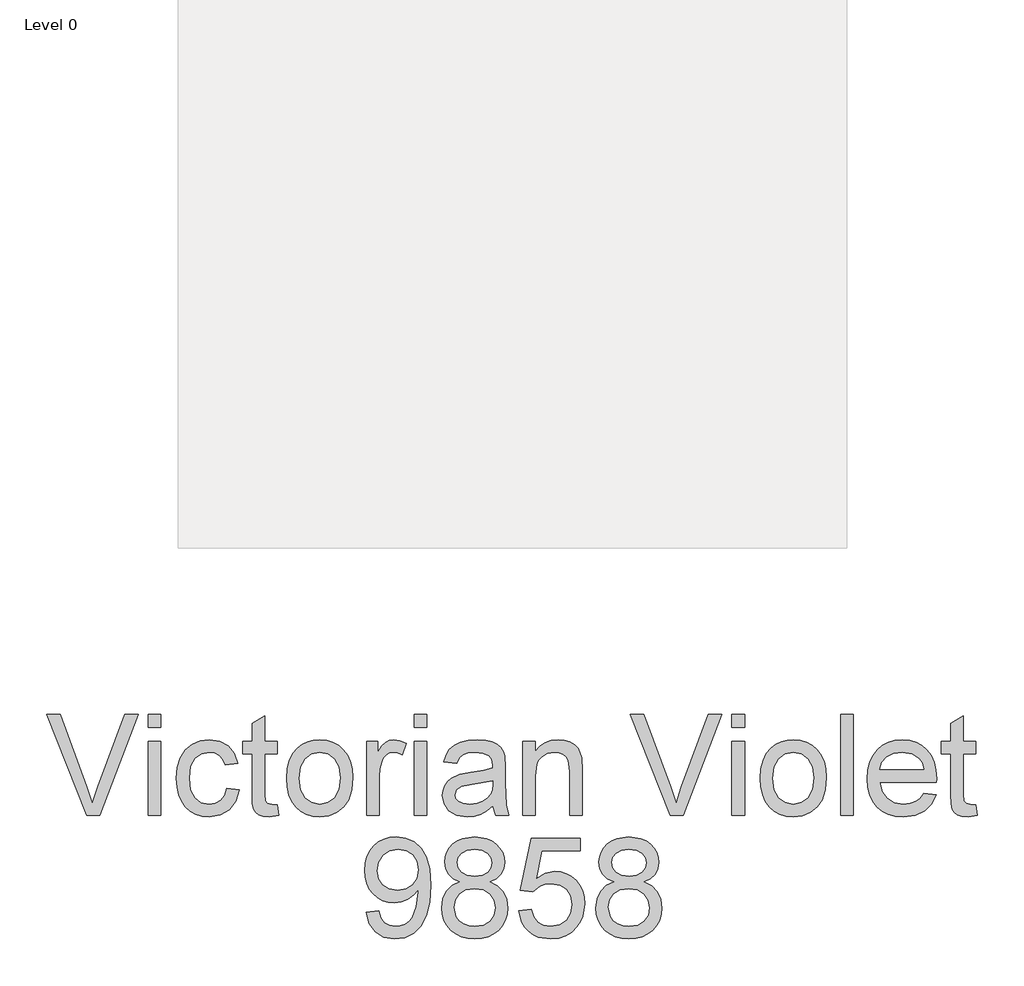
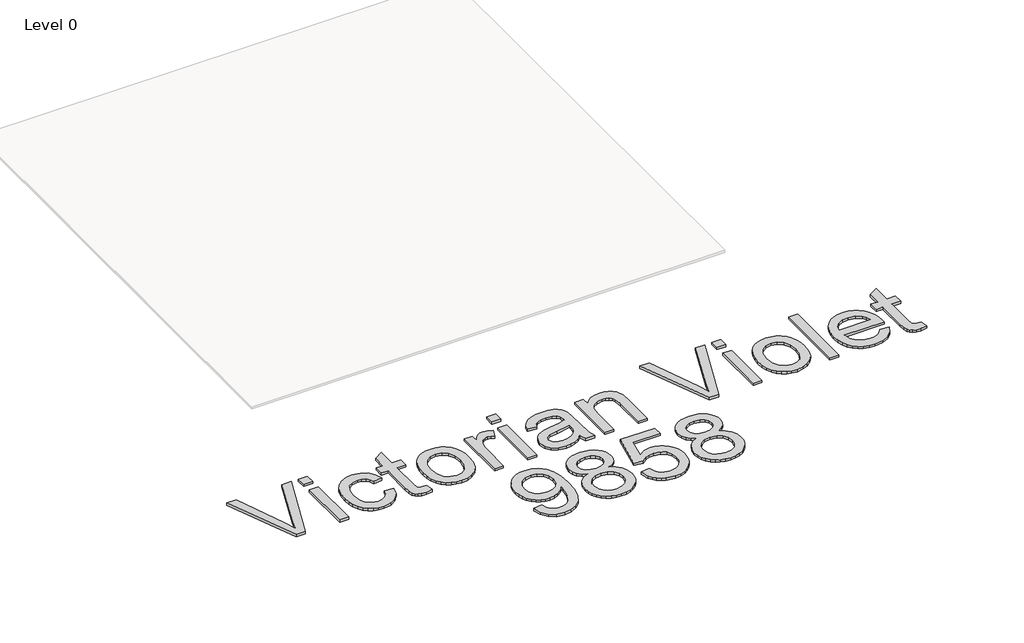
# One storey, part 4 of 8: 1 proxy.
"""IFC4 building model written with IfcOpenShell, lengths in millimetres."""

from ifc_helpers import new_model, si_unit, origin, origin_with_axes, place, context, project, spatial, polyline, outline, extrude, element, save

model = new_model("IFC4")

# Units and contexts
model_context = context("Model", 3, world=origin())
ifc_project = project(units=[si_unit("LENGTHUNIT", "METRE", prefix="MILLI")], contexts=[model_context])

# Site, building, storey
site = spatial("IfcSite", under=ifc_project)
building = spatial("IfcBuilding", under=site)
storey = spatial("IfcBuildingStorey", under=building, Name="Level 0", Elevation=0.0)

# Proxy
placement = place(None, origin())
element("IfcBuildingElementProxy", 1, Name="300mm Arial", ObjectType="300mm Arial", at=placement, inside=storey, context=model_context, shape_type="SweptSolid", body=[
    extrude(outline(polyline([(-724.8541348, -12002.860494), (-844.7836652, -11701.4915635), (-804.4637986, -11701.4915635), (-724.1919472, -11918.6155171), (-707.931563, -11967.5438224), (-691.891908, -11918.6155171), (-611.3993275, -11701.4915635), (-571.0794608, -11701.4915635), (-685.9322197, -12002.860494), (-724.8541348, -12002.860494)])), origin_with_axes(), (0.0, 0.0, 1.0), 10.0),
    extrude(outline(polyline([(-540.7659844, -12002.860494), (-540.7659844, -11781.5426857), (-503.0948681, -11781.5426857), (-503.0948681, -12002.860494), (-540.7659844, -12002.860494)])), origin_with_axes(), (0.0, 0.0, 1.0), 10.0),
    extrude(outline(polyline([(-540.7659844, -11739.1626798), (-540.7659844, -11701.4915635), (-503.0948681, -11701.4915635), (-503.0948681, -11739.1626798), (-540.7659844, -11739.1626798)])), origin_with_axes(), (0.0, 0.0, 1.0), 10.0),
    extrude(outline(polyline([(-305.3215075, -11922.8093718), (-267.6503912, -11927.5182614), (-278.1534222, -11961.0231141), (-297.8902912, -11986.3425924), (-325.0031942, -12002.2626857), (-357.6343272, -12007.5693835), (-378.7622501, -12005.7184772), (-397.7058735, -12000.1657584), (-414.4651977, -11990.9112269), (-429.0402225, -11977.9548829), (-440.8377382, -11961.5404481), (-449.2645352, -11941.9116444), (-454.3206133, -11919.0684718), (-456.0059727, -11893.0109302), (-453.1272961, -11859.4876834), (-444.4912663, -11830.4342028), (-429.9599275, -11806.9725286), (-409.3953239, -11790.2247008), (-384.7932155, -11780.1815223), (-358.149362, -11776.8337961), (-326.3183724, -11781.4323211), (-300.8701354, -11795.2278959), (-282.6139913, -11817.4847566), (-272.3592807, -11847.4671392), (-310.030397, -11852.1760288), (-316.8638051, -11835.7409006), (-327.5047918, -11823.9594797), (-341.364746, -11816.8685543), (-357.8550564, -11814.5049125), (-382.1996474, -11819.1586197), (-401.5226492, -11833.1197414), (-414.1318046, -11857.1424357), (-418.3348564, -11891.9808606), (-414.2237751, -11927.2883351), (-401.8905312, -11951.3938029), (-382.9170173, -11965.2721511), (-358.885126, -11969.8982672), (-339.3781832, -11967.0103936), (-323.3845135, -11958.3467726), (-311.7502454, -11943.6866751), (-305.3215075, -11922.8093718)])), origin_with_axes(), (0.0, 0.0, 1.0), 10.0),
    extrude(outline(polyline([(-154.6370423, -11971.4433716), (-149.9281527, -12003.96414), (-178.1079136, -12007.5693835), (-196.1893136, -12006.005885), (-209.6721888, -12001.3153896), (-219.2003324, -11994.0865084), (-225.4175381, -11984.9078526), (-228.8388407, -11969.1441091), (-229.9792749, -11942.1599648), (-229.9792749, -11819.213802), (-258.2326121, -11819.213802), (-258.2326121, -11781.5426857), (-229.9792749, -11781.5426857), (-229.9792749, -11727.758338), (-192.3081586, -11705.6118419), (-192.3081586, -11781.5426857), (-154.6370423, -11781.5426857), (-154.6370423, -11819.213802), (-192.3081586, -11819.213802), (-192.3081586, -11941.0563188), (-190.3215958, -11960.4804881), (-183.8836609, -11967.3598814), (-171.0445793, -11969.8982672), (-154.6370423, -11971.4433716)])), origin_with_axes(), (0.0, 0.0, 1.0), 10.0),
    extrude(outline(polyline([(-126.383705, -11892.2015898), (-124.3465585, -11863.5389839), (-118.2351189, -11838.8403064), (-108.0493861, -11818.1055575), (-93.7893603, -11801.334737), (-79.4327654, -11790.6155754), (-63.5862485, -11782.9590314), (-46.2498094, -11778.3651049), (-27.4234483, -11776.8337961), (-6.6404149, -11778.698498), (12.1514573, -11784.2926036), (28.9521682, -11793.6161129), (43.7617177, -11806.669026), (55.8489405, -11823.0098843), (64.4826711, -11842.1972296), (69.6629094, -11864.2310619), (71.3896556, -11889.1113811), (68.336235, -11927.1687735), (59.1759733, -11956.1394806), (44.175585, -11977.8353213), (23.6017844, -11994.0681143), (-0.8347771, -12004.1940662), (-27.4234483, -12007.5693835), (-48.5099845, -12005.7115794), (-67.4766006, -12000.1381672), (-84.3232967, -11990.8491468), (-99.0500728, -11977.8445183), (-111.0085369, -11961.3450108), (-119.550297, -11941.5713536), (-124.675353, -11918.5235466), (-126.383705, -11892.2015898)]), holes=[polyline([(-88.7125887, -11892.1280134), (-84.3531871, -11926.2214773), (-71.2749822, -11950.5108861), (-51.5932954, -11965.0514219), (-27.4234483, -11969.8982672), (-3.3639659, -11965.0238308), (16.2809327, -11950.4005215), (29.3591376, -11925.789216), (33.7185393, -11890.950791), (29.3315465, -11857.8506085), (16.1705681, -11833.8922936), (-3.5019216, -11819.3517577), (-27.4234483, -11814.5049125), (-51.5932954, -11819.3333636), (-71.2749822, -11833.8187172), (-84.3531871, -11858.0529436), (-88.7125887, -11892.1280134)])]), origin_with_axes(), (0.0, 0.0, 1.0), 10.0),
    extrude(outline(polyline([(113.7696614, -12002.860494), (113.7696614, -11781.5426857), (146.7318882, -11781.5426857), (146.7318882, -11814.2841833), (158.9087822, -11795.3014723), (170.1291831, -11784.1178596), (181.3863721, -11778.654812), (193.6736308, -11776.8337961), (212.4356125, -11779.7400639), (231.4918999, -11788.4588672), (218.9103356, -11822.2304343), (205.6665838, -11816.4362929), (192.422832, -11814.5049125), (181.17484, -11816.3627165), (171.1224645, -11821.9361288), (163.0014694, -11830.8020848), (157.5476188, -11842.5375205), (152.967488, -11863.5803706), (151.4407777, -11886.5362071), (151.4407777, -12002.860494), (113.7696614, -12002.860494)])), origin_with_axes(), (0.0, 0.0, 1.0), 10.0),
    extrude(outline(polyline([(255.0363476, -11739.1626798), (255.0363476, -11701.4915635), (292.7074639, -11701.4915635), (292.7074639, -11739.1626798), (255.0363476, -11739.1626798)])), origin_with_axes(), (0.0, 0.0, 1.0), 10.0),
    extrude(outline(polyline([(255.0363476, -12002.860494), (255.0363476, -11781.5426857), (292.7074639, -11781.5426857), (292.7074639, -12002.860494), (255.0363476, -12002.860494)])), origin_with_axes(), (0.0, 0.0, 1.0), 10.0),
    extrude(outline(polyline([(490.4808245, -11974.6071568), (472.4821979, -11990.0398064), (453.9501423, -12000.1381672), (434.4615936, -12005.7115794), (413.5934875, -12007.5693835), (382.1119857, -12003.0996173), (358.8894348, -11989.6903186), (344.5696281, -11969.3280501), (339.7963592, -11943.9993748), (341.598981, -11928.3827841), (347.0068463, -11914.2009331), (355.3485706, -11902.0608273), (365.9527691, -11892.5694718), (392.3299082, -11880.2086368), (424.9242529, -11874.5432541), (463.4414978, -11868.5835657), (490.2600953, -11861.5938078), (490.4808245, -11853.2060983), (487.8872564, -11836.3938912), (480.1065522, -11825.3942195), (462.7057338, -11817.2272392), (438.4623103, -11814.5049125), (416.0215086, -11816.3167313), (400.3497356, -11821.7521878), (389.6627637, -11831.8045633), (382.1763651, -11847.4671392), (344.5052488, -11842.7582497), (351.0443512, -11822.156858), (360.8024212, -11805.9700502), (374.6899665, -11793.590821), (393.6174951, -11784.4121652), (416.7664697, -11778.7283884), (443.3183527, -11776.8337961), (468.7849838, -11778.5076592), (488.9725083, -11783.5292485), (504.1936258, -11791.0800264), (514.7610361, -11800.3414556), (521.7691882, -11811.7917827), (526.3125308, -11825.9092543), (528.1519408, -11858.8714811), (528.1519408, -11905.7396473), (530.0649271, -11971.1858542), (537.5697198, -12002.860494), (499.8986035, -12002.860494), (490.4808245, -11974.6071568)]), holes=[polyline([(490.4808245, -11899.2649241), (429.7067189, -11910.8164188), (397.2963151, -11916.9232599), (382.6178235, -11926.8560738), (377.4674755, -11941.3506244), (380.2725758, -11952.5526311), (388.6878764, -11961.7312869), (402.5294365, -11967.8565221), (421.613315, -11969.8982672), (441.8468247, -11967.64499), (459.7258897, -11960.8851583), (474.2204403, -11950.9247533), (484.3004069, -11939.069756), (488.7701732, -11926.8560738), (490.2600953, -11909.933502), (490.4808245, -11899.2649241)])]), origin_with_axes(), (0.0, 0.0, 1.0), 10.0),
    extrude(outline(polyline([(579.9497257, -12002.860494), (579.9497257, -11781.5426857), (617.620842, -11781.5426857), (617.620842, -11812.4447733), (630.708244, -11796.8649708), (646.4260022, -11785.7365404), (664.7741167, -11779.0594822), (685.7525875, -11776.8337961), (704.3214312, -11778.6272209), (721.3267764, -11784.0074951), (735.5086274, -11792.303234), (745.6069881, -11802.8430532), (756.9009654, -11830.5445674), (758.8875281, -11866.964885), (758.8875281, -12002.860494), (721.2164118, -12002.860494), (721.2164118, -11872.0416565), (716.8754043, -11838.7115477), (710.8697307, -11828.7879309), (701.5347251, -11821.0900002), (689.5693632, -11816.1511844), (675.6726208, -11814.5049125), (653.6088982, -11818.2021265), (634.8009312, -11829.2937687), (627.2846422, -11838.3482643), (621.9158643, -11850.7228949), (617.620842, -11885.4325611), (617.620842, -12002.860494), (579.9497257, -12002.860494)])), origin_with_axes(), (0.0, 0.0, 1.0), 10.0),
    extrude(outline(polyline([(1022.1438839, -12002.860494), (902.2143535, -11701.4915635), (942.5342201, -11701.4915635), (1022.8060715, -11918.6155171), (1039.0664557, -11967.5438224), (1055.1061107, -11918.6155171), (1135.5986912, -11701.4915635), (1175.9185579, -11701.4915635), (1061.065799, -12002.860494), (1022.1438839, -12002.860494)])), origin_with_axes(), (0.0, 0.0, 1.0), 10.0),
    extrude(outline(polyline([(1206.2320343, -11739.1626798), (1206.2320343, -11701.4915635), (1243.9031506, -11701.4915635), (1243.9031506, -11739.1626798), (1206.2320343, -11739.1626798)])), origin_with_axes(), (0.0, 0.0, 1.0), 10.0),
    extrude(outline(polyline([(1206.2320343, -12002.860494), (1206.2320343, -11781.5426857), (1243.9031506, -11781.5426857), (1243.9031506, -12002.860494), (1206.2320343, -12002.860494)])), origin_with_axes(), (0.0, 0.0, 1.0), 10.0),
    extrude(outline(polyline([(1290.992046, -11892.2015898), (1293.0291925, -11863.5389839), (1299.1406322, -11838.8403064), (1309.3263649, -11818.1055575), (1323.5863907, -11801.334737), (1337.9429856, -11790.6155754), (1353.7895025, -11782.9590314), (1371.1259416, -11778.3651049), (1389.9523027, -11776.8337961), (1410.7353361, -11778.698498), (1429.5272083, -11784.2926036), (1446.3279192, -11793.6161129), (1461.1374687, -11806.669026), (1473.2246915, -11823.0098843), (1481.8584221, -11842.1972296), (1487.0386605, -11864.2310619), (1488.7654066, -11889.1113811), (1485.711986, -11927.1687735), (1476.5517243, -11956.1394806), (1461.551336, -11977.8353213), (1440.9775354, -11994.0681143), (1416.5409739, -12004.1940662), (1389.9523027, -12007.5693835), (1368.8657666, -12005.7115794), (1349.8991504, -12000.1381672), (1333.0524543, -11990.8491468), (1318.3256782, -11977.8445183), (1306.3672141, -11961.3450108), (1297.825454, -11941.5713536), (1292.700398, -11918.5235466), (1290.992046, -11892.2015898)]), holes=[polyline([(1328.6631623, -11892.1280134), (1333.0225639, -11926.2214773), (1346.1007688, -11950.5108861), (1365.7824556, -11965.0514219), (1389.9523027, -11969.8982672), (1414.0117852, -11965.0238308), (1433.6566837, -11950.4005215), (1446.7348886, -11925.789216), (1451.0942903, -11890.950791), (1446.7072975, -11857.8506085), (1433.5463191, -11833.8922936), (1413.8738294, -11819.3517577), (1389.9523027, -11814.5049125), (1365.7824556, -11819.3333636), (1346.1007688, -11833.8187172), (1333.0225639, -11858.0529436), (1328.6631623, -11892.1280134)])]), origin_with_axes(), (0.0, 0.0, 1.0), 10.0),
    extrude(outline(polyline([(1531.1454124, -12002.860494), (1531.1454124, -11701.4915635), (1568.8165287, -11701.4915635), (1568.8165287, -12002.860494), (1531.1454124, -12002.860494)])), origin_with_axes(), (0.0, 0.0, 1.0), 10.0),
    extrude(outline(polyline([(1780.2750996, -11936.9360404), (1817.2104519, -11941.64493), (1803.9023207, -11969.4752029), (1782.6663325, -11990.2789297), (1753.9807339, -12003.2467701), (1718.3237716, -12007.5693835), (1694.9494693, -12005.7046817), (1674.1227498, -12000.1105761), (1655.8436132, -11990.7870668), (1640.1120594, -11977.7341537), (1627.4615173, -11961.3151204), (1618.4254158, -11941.8932503), (1613.0037549, -11919.4685435), (1611.1965346, -11894.0409998), (1613.022149, -11867.7512327), (1618.4989922, -11844.5792656), (1627.6270642, -11824.5250983), (1640.406365, -11807.5887309), (1656.0965321, -11794.133447), (1673.9572029, -11784.5225298), (1693.9883776, -11778.7559796), (1716.190056, -11776.8337961), (1737.6766638, -11778.751381), (1757.1077309, -11784.5041357), (1774.4832574, -11794.0920602), (1789.8032432, -11807.5151545), (1802.3089318, -11824.4147337), (1811.2415665, -11844.4321128), (1816.6011473, -11867.5672917), (1818.3876743, -11893.8202706), (1818.1669451, -11903.9738137), (1648.8676509, -11903.9738137), (1655.3883592, -11932.1719686), (1670.5359004, -11952.902119), (1692.397288, -11965.6492302), (1719.0595356, -11969.8982672), (1739.1091043, -11967.9300985), (1755.9948879, -11962.0255925), (1769.7168863, -11951.8168672), (1780.2750996, -11936.9360404)]), holes=[polyline([(1648.8676509, -11866.3026974), (1780.7165579, -11866.3026974), (1775.6213923, -11846.4002814), (1765.6333961, -11832.1632482), (1743.670841, -11818.9194964), (1716.0429032, -11814.5049125), (1690.6498485, -11818.0273826), (1669.6529836, -11828.5947929), (1655.0572654, -11845.0667092), (1648.8676509, -11866.3026974)])]), origin_with_axes(), (0.0, 0.0, 1.0), 10.0),
    extrude(outline(polyline([(1936.1099127, -11971.4433716), (1940.8188022, -12003.96414), (1912.6390414, -12007.5693835), (1894.5576414, -12006.005885), (1881.0747662, -12001.3153896), (1871.5466226, -11994.0865084), (1865.3294168, -11984.9078526), (1861.9081143, -11969.1441091), (1860.7676801, -11942.1599648), (1860.7676801, -11819.213802), (1832.5143429, -11819.213802), (1832.5143429, -11781.5426857), (1860.7676801, -11781.5426857), (1860.7676801, -11727.758338), (1898.4387964, -11705.6118419), (1898.4387964, -11781.5426857), (1936.1099127, -11781.5426857), (1936.1099127, -11819.213802), (1898.4387964, -11819.213802), (1898.4387964, -11941.0563188), (1900.4253592, -11960.4804881), (1906.8632941, -11967.3598814), (1919.7023757, -11969.8982672), (1936.1099127, -11971.4433716)])), origin_with_axes(), (0.0, 0.0, 1.0), 10.0),
    extrude(outline(polyline([(111.4152166, -12293.4427149), (149.0863329, -12288.7338254), (155.5242679, -12310.1169663), (166.0089047, -12324.6758963), (180.2827261, -12333.0360146), (198.0882147, -12335.8227207), (214.0634903, -12334.029296), (228.5856321, -12328.6490218), (240.6521615, -12320.2705094), (249.2606002, -12309.4823699), (261.5846471, -12276.7408723), (267.0293006, -12233.0364913), (266.8085714, -12225.6788514), (253.7579576, -12241.6081418), (236.679036, -12254.2264942), (216.8042112, -12262.4486568), (195.3658879, -12265.1893777), (177.4707281, -12263.5155146), (161.0149066, -12258.4939254), (145.9984234, -12250.12461), (132.4212786, -12238.4075684), (121.1709873, -12223.9544045), (113.135065, -12207.3767221), (108.3135116, -12188.6745212), (106.7063271, -12167.8478018), (108.3916865, -12146.326705), (113.4477647, -12127.0129003), (121.8745616, -12109.9063875), (133.6720773, -12095.0071667), (148.0079788, -12082.9360387), (164.0499331, -12074.3138045), (181.7979401, -12069.1404639), (201.2519999, -12067.4160171), (229.3489872, -12071.3523544), (254.925983, -12083.1613665), (276.318321, -12102.254442), (291.8613353, -12128.0429699), (301.3250996, -12163.6907352), (304.4796877, -12212.3615232), (301.3342966, -12263.96617), (291.8981235, -12303.8537754), (276.2539416, -12333.8269609), (254.4845246, -12355.6883485), (227.5279714, -12369.0424649), (196.3223811, -12373.4938371), (164.1143124, -12368.2423216), (138.4177551, -12352.4877751), (120.4467196, -12327.2234791), (111.4152166, -12293.4427149)]), holes=[polyline([(266.8085714, -12166.964885), (262.7434754, -12141.4338745), (250.5481872, -12121.788976), (231.6206586, -12109.262594), (207.358841, -12105.0871334), (182.1957125, -12109.5844908), (162.0357792, -12123.0765629), (148.7920273, -12143.7239399), (144.3774434, -12169.6872117), (148.552904, -12192.964945), (161.079286, -12211.4418182), (180.7425786, -12223.4991506), (206.3287714, -12227.5182614), (230.3974509, -12223.4991506), (249.775635, -12211.4418182), (262.5503373, -12192.2843633), (266.8085714, -12166.964885)])]), origin_with_axes(), (0.0, 0.0, 1.0), 10.0),
    extrude(outline(polyline([(392.3299082, -12202.7965913), (372.1607778, -12192.8637774), (358.006518, -12179.3992964), (349.6463997, -12162.6790597), (346.8596935, -12142.9789789), (348.3772068, -12127.6153071), (352.9297465, -12113.5300252), (360.5173126, -12100.7231332), (371.1399052, -12089.1946312), (384.287088, -12079.6664875), (399.4484248, -12072.8606706), (435.81356, -12067.4160171), (472.3994244, -12072.9894293), (487.726308, -12079.9561946), (501.0758259, -12089.709666), (511.8915566, -12101.4634957), (519.6170785, -12114.4313361), (524.2523916, -12128.613187), (525.797496, -12144.0090485), (523.0475781, -12163.0745329), (514.7978243, -12179.509661), (500.9562643, -12192.8913686), (481.4309274, -12202.7965913), (504.6166901, -12214.7435591), (521.4932767, -12232.3375155), (531.7847755, -12254.732332), (535.2152751, -12281.0818799), (533.5138209, -12299.8714528), (528.4094582, -12317.0975272), (519.902187, -12332.7601031), (507.9920074, -12346.8591806), (493.3043188, -12358.5118428), (476.4645204, -12366.8351729), (457.4726124, -12371.829171), (436.3285948, -12373.4938371), (415.1845771, -12371.8222732), (396.1926691, -12366.8075818), (379.3528708, -12358.4497627), (364.6651821, -12346.748816), (352.7550025, -12332.5508703), (344.2477314, -12316.702054), (339.1433687, -12299.2023674), (337.4419145, -12280.0518103), (341.0103698, -12252.6813898), (351.7157359, -12230.1670117), (369.0061897, -12213.2812282), (392.3299082, -12202.7965913)]), holes=[polyline([(384.5308099, -12144.0826249), (387.869339, -12160.52695), (397.8849263, -12173.6603373), (414.2832662, -12182.268776), (436.7700532, -12185.1382555), (458.7326083, -12182.2871701), (474.8826279, -12173.7339137), (484.8154417, -12161.0419848), (488.1263797, -12145.774882), (484.7050771, -12129.9283651), (474.4411695, -12116.822569), (458.0704207, -12108.0209923), (436.3285948, -12105.0871334), (414.4488131, -12107.9566129), (398.1056555, -12116.5650516), (387.9245213, -12129.1834041), (384.5308099, -12144.0826249)]), polyline([(375.1130308, -12278.7274351), (381.4038129, -12307.0911369), (390.1134191, -12319.2588339), (403.6606736, -12328.317928), (419.8842696, -12333.9465226), (436.6229004, -12335.8227207), (462.2642754, -12331.8771864), (481.5045038, -12320.0405832), (493.534245, -12302.1155329), (497.5441588, -12279.9046575), (493.4054863, -12257.316703), (480.989469, -12238.9961796), (461.3077822, -12226.8560738), (435.3721016, -12222.8093718), (410.0894115, -12226.8008915), (391.0423212, -12238.7754504), (379.0953534, -12256.7464859), (375.1130308, -12278.7274351)])]), origin_with_axes(), (0.0, 0.0, 1.0), 10.0),
    extrude(outline(polyline([(568.1775018, -12288.7338254), (605.8486182, -12284.0249358), (612.7647997, -12306.6404815), (624.8313291, -12322.8364863), (641.9930242, -12332.5761621), (664.1947026, -12335.8227207), (691.197241, -12331.3069693), (711.4307508, -12317.7597148), (724.0674973, -12296.7444558), (728.2797461, -12269.8246908), (724.3342117, -12244.4776213), (712.4976086, -12225.0902402), (692.6779661, -12212.7845875), (664.7833138, -12208.6827032), (646.5087757, -12210.3197781), (631.7107224, -12215.2310027), (610.5575077, -12232.2271509), (572.8863914, -12227.5182614), (605.8486182, -12072.1249066), (751.8241938, -12072.1249066), (751.8241938, -12109.7960229), (636.3092474, -12109.7960229), (620.196016, -12192.790201), (647.1065839, -12176.4562404), (675.3047388, -12171.0115869), (693.6505541, -12172.6992456), (710.5018487, -12177.7622215), (725.8586228, -12186.2005148), (739.7208762, -12198.0141254), (751.1964952, -12212.4810848), (759.3933659, -12228.8794248), (764.3114883, -12247.2091452), (765.9508625, -12267.470246), (760.0463564, -12305.1413624), (752.6657239, -12321.9351754), (742.3328384, -12337.3678251), (726.6794595, -12353.1729553), (708.4141184, -12364.4623341), (687.5368152, -12371.2359613), (664.0475498, -12373.4938371), (627.0478181, -12367.6904986), (611.3691473, -12360.4363255), (597.5712733, -12350.2804832), (586.0910557, -12337.7288093), (577.3653547, -12323.2871418), (568.1775018, -12288.7338254)])), origin_with_axes(), (0.0, 0.0, 1.0), 10.0),
    extrude(outline(polyline([(853.8010829, -12202.7965913), (833.6319525, -12192.8637774), (819.4776928, -12179.3992964), (811.1175744, -12162.6790597), (808.3308683, -12142.9789789), (809.8483815, -12127.6153071), (814.4009212, -12113.5300252), (821.9884874, -12100.7231332), (832.61108, -12089.1946312), (845.7582628, -12079.6664875), (860.9195995, -12072.8606706), (897.2847347, -12067.4160171), (933.8705992, -12072.9894293), (949.1974828, -12079.9561946), (962.5470007, -12089.709666), (973.3627313, -12101.4634957), (981.0882532, -12114.4313361), (985.7235664, -12128.613187), (987.2686708, -12144.0090485), (984.5187528, -12163.0745329), (976.2689991, -12179.509661), (962.427439, -12192.8913686), (942.9021021, -12202.7965913), (966.0878649, -12214.7435591), (982.9644514, -12232.3375155), (993.2559502, -12254.732332), (996.6864498, -12281.0818799), (994.9849956, -12299.8714528), (989.8806329, -12317.0975272), (981.3733618, -12332.7601031), (969.4631822, -12346.8591806), (954.7754935, -12358.5118428), (937.9356952, -12366.8351729), (918.9437872, -12371.829171), (897.7997695, -12373.4938371), (876.6557519, -12371.8222732), (857.6638439, -12366.8075818), (840.8240455, -12358.4497627), (826.1363569, -12346.748816), (814.2261773, -12332.5508703), (805.7189061, -12316.702054), (800.6145434, -12299.2023674), (798.9130892, -12280.0518103), (802.4815446, -12252.6813898), (813.1869106, -12230.1670117), (830.4773644, -12213.2812282), (853.8010829, -12202.7965913)]), holes=[polyline([(846.0019846, -12144.0826249), (849.3405137, -12160.52695), (859.356101, -12173.6603373), (875.754441, -12182.268776), (898.2412279, -12185.1382555), (920.203783, -12182.2871701), (936.3538026, -12173.7339137), (946.2866165, -12161.0419848), (949.5975544, -12145.774882), (946.1762519, -12129.9283651), (935.9123442, -12116.822569), (919.5415954, -12108.0209923), (897.7997695, -12105.0871334), (875.9199879, -12107.9566129), (859.5768302, -12116.5650516), (849.395696, -12129.1834041), (846.0019846, -12144.0826249)]), polyline([(836.5842055, -12278.7274351), (842.8749876, -12307.0911369), (851.5845939, -12319.2588339), (865.1318484, -12328.317928), (881.3554443, -12333.9465226), (898.0940751, -12335.8227207), (923.7354502, -12331.8771864), (942.9756785, -12320.0405832), (955.0054198, -12302.1155329), (959.0153335, -12279.9046575), (954.8766611, -12257.316703), (942.4606437, -12238.9961796), (922.778957, -12226.8560738), (896.8432763, -12222.8093718), (871.5605862, -12226.8008915), (852.5134959, -12238.7754504), (840.5665281, -12256.7464859), (836.5842055, -12278.7274351)])]), origin_with_axes(), (0.0, 0.0, 1.0), 10.0),
])

save(model, "model.ifc")
